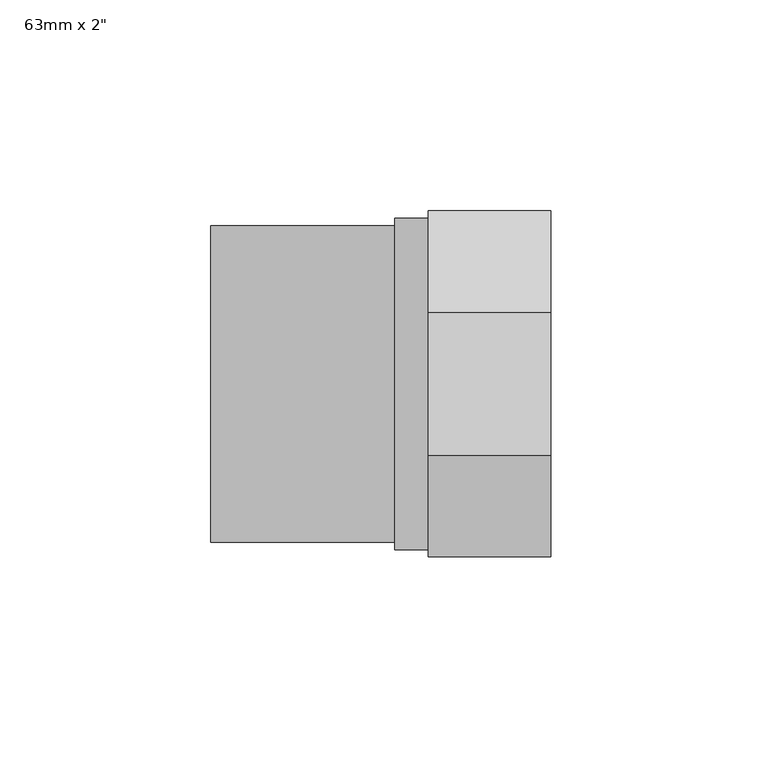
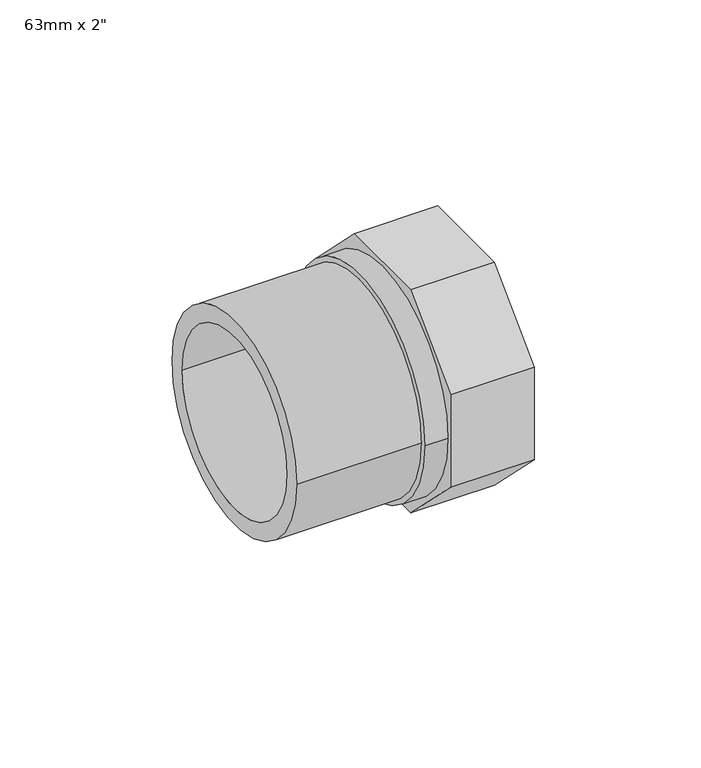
"""IFC4 building model written with IfcOpenShell, lengths in millimetres: pipe fitting geometry."""

from ifc_helpers import new_model, si_unit, point, frame, origin, origin_2d, place, context, project, spatial, polyline, circle_curve, trimmed, segment, composite_curve, outline, extrude, source, transform, mapped, element, save
from ifc_brep_helpers import plane_surface, revolved_surface, advanced_brep


def pipe_fitting_bdc568c9(model_context):
    return source(origin(), model_context, "Body", "SolidModel", [
        extrude(outline(composite_curve([segment(trimmed(circle_curve(origin_2d(), 39.25), [point((-39.25, 0.0))], [point((39.25, 0.0))], False, "CARTESIAN"), True, "CONTINUOUS"), segment(trimmed(circle_curve(origin_2d(), 39.25), [point((39.25, 0.0))], [point((-39.25, 0.0))], False, "CARTESIAN"), True, "CONTINUOUS")], self_intersect=False), holes=[composite_curve([segment(trimmed(circle_curve(origin_2d(), 25.0), [point((-25.0, 0.0))], [point((25.0, 0.0))], True, "CARTESIAN"), True, "CONTINUOUS"), segment(trimmed(circle_curve(origin_2d(), 25.0), [point((25.0, 0.0))], [point((-25.0, 0.0))], True, "CARTESIAN"), True, "CONTINUOUS")], self_intersect=False)]), frame((21.75, 0.0, 0.0), z_axis=(1.0, 0.0, 0.0), x_axis=(0.0, 1.0, 0.0)), (0.0, 0.0, 1.0), 8.0),
        advanced_brep(
        [(29.75, 16.9827561, 41.0), (29.75, 41.0, 16.9827561), (29.75, 41.0, -16.9827561), (29.75, 16.9827561, -41.0), (29.75, -16.9827561, -41.0), (29.75, -41.0, -16.9827561), (29.75, -41.0, 16.9827561), (29.75, -16.9827561, 41.0), (29.75, -25.0, 0.0), (29.75, 25.0, 0.0), (58.75, 16.9827561, 41.0), (58.75, -16.9827561, 41.0), (58.75, -41.0, 16.9827561), (58.75, -41.0, -16.9827561), (58.75, -16.9827561, -41.0), (58.75, 16.9827561, -41.0), (58.75, 41.0, -16.9827561), (58.75, 41.0, 16.9827561), (58.75, 30.0, 0.0), (58.75, -30.0, 0.0), (58.55, 30.0, 0.0), (58.55, -30.0, 0.0), (58.55, 25.0, 0.0), (58.55, -25.0, 0.0)],
        [
            (0, 1),
            (1, 2),
            (2, 3),
            (3, 4),
            (4, 5),
            (5, 6),
            (6, 7),
            (7, 0),
            (8, 9, circle_curve(frame((29.75, 0.0, 0.0), z_axis=(1.0, 0.0, 0.0), x_axis=(0.0, -1.0, 0.0)), 25.0)),
            (9, 8, circle_curve(frame((29.75, 0.0, 0.0), z_axis=(1.0, 0.0, 0.0), x_axis=(0.0, -1.0, 0.0)), 25.0)),
            (10, 11),
            (11, 12),
            (12, 13),
            (13, 14),
            (14, 15),
            (15, 16),
            (16, 17),
            (17, 10),
            (18, 19, circle_curve(frame((58.75, 0.0, 0.0), z_axis=(-1.0, 0.0, 0.0), x_axis=(0.0, -1.0, 0.0)), 30.0)),
            (19, 18, circle_curve(frame((58.75, 0.0, 0.0), z_axis=(-1.0, 0.0, 0.0), x_axis=(0.0, -1.0, 0.0)), 30.0)),
            (0, 10),
            (17, 1),
            (16, 2),
            (15, 3),
            (14, 4),
            (13, 5),
            (12, 6),
            (11, 7),
            (20, 21, circle_curve(frame((58.55, 0.0, 0.0), z_axis=(1.0, 0.0, 0.0), x_axis=(0.0, -1.0, 0.0)), 30.0)),
            (21, 20, circle_curve(frame((58.55, 0.0, 0.0), z_axis=(1.0, 0.0, 0.0), x_axis=(0.0, -1.0, 0.0)), 30.0)),
            (22, 23, circle_curve(frame((58.55, 0.0, 0.0), z_axis=(-1.0, 0.0, 0.0), x_axis=(0.0, -1.0, 0.0)), 25.0)),
            (23, 22, circle_curve(frame((58.55, 0.0, 0.0), z_axis=(-1.0, 0.0, 0.0), x_axis=(0.0, -1.0, 0.0)), 25.0)),
            (21, 19),
            (18, 20),
            (22, 9),
            (8, 23),
        ],
        [
            plane_surface(frame((29.75, 0.0, 0.0), z_axis=(-1.0, 0.0, 0.0), x_axis=(0.0, 0.0, 1.0))),
            plane_surface(frame((58.75, 0.0, 0.0), z_axis=(1.0, 0.0, 0.0), x_axis=(0.0, 0.0, 1.0))),
            plane_surface(frame((29.75, 16.9827561, 41.0), z_axis=(0.0, 0.7071067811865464, 0.7071067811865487), x_axis=(1.0, 0.0, 0.0))),
            plane_surface(frame((29.75, 41.0, 16.9827561), z_axis=(0.0, 1.0, 0.0), x_axis=(1.0, 0.0, 0.0))),
            plane_surface(frame((29.75, 41.0, -16.9827561), z_axis=(0.0, 0.7071067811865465, -0.7071067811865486), x_axis=(1.0, 0.0, 0.0))),
            plane_surface(frame((29.75, 16.9827561, -41.0), z_axis=(0.0, 0.0, -1.0), x_axis=(1.0, 0.0, 0.0))),
            plane_surface(frame((29.75, -16.9827561, -41.0), z_axis=(0.0, -0.707106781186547, -0.7071067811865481), x_axis=(1.0, 0.0, 0.0))),
            plane_surface(frame((29.75, -41.0, -16.9827561), z_axis=(0.0, -1.0, 0.0), x_axis=(1.0, 0.0, 0.0))),
            plane_surface(frame((29.75, -41.0, 16.9827561), z_axis=(0.0, -0.7071067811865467, 0.7071067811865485), x_axis=(1.0, 0.0, 0.0))),
            plane_surface(frame((29.75, -16.9827561, 41.0), z_axis=(0.0, 0.0, 1.0), x_axis=(1.0, 0.0, 0.0))),
            plane_surface(frame((58.55, -30.0, 0.0), z_axis=(1.0, 0.0, 0.0), x_axis=(0.0, 0.0, 1.0))),
            revolved_surface(polyline([(58.55, -30.0, 0.0), (58.75, -30.0, 0.0)]), (58.75, 0.0, 0.0), (-1.0, 0.0, 0.0)),
            revolved_surface(polyline([(29.75, -25.0, 0.0), (58.55, -25.0, 0.0)]), (58.75, 0.0, 0.0), (-1.0, 0.0, 0.0)),
        ],
        [
            (0, [[1, 2, 3, 4, 5, 6, 7, 8], [9, 10]]),
            (1, [[11, 12, 13, 14, 15, 16, 17, 18], [19, 20]]),
            (2, [[-1, 21, -18, 22]]),
            (3, [[-2, -22, -17, 23]]),
            (4, [[-3, -23, -16, 24]]),
            (5, [[-4, -24, -15, 25]]),
            (6, [[-5, -25, -14, 26]]),
            (7, [[-6, -26, -13, 27]]),
            (8, [[-7, -27, -12, 28]]),
            (9, [[-8, -28, -11, -21]]),
            (10, [[29, 30], [31, 32]]),
            (11, [[-30, 33, -19, 34]]),
            (11, [[-29, -34, -20, -33]]),
            (12, [[35, -9, 36, -31]]),
            (12, [[-35, -32, -36, -10]]),
        ],
    ),
        extrude(outline(composite_curve([segment(trimmed(circle_curve(origin_2d(), 37.5), [point((-37.5, 0.0))], [point((37.5, 0.0))], False, "CARTESIAN"), True, "CONTINUOUS"), segment(trimmed(circle_curve(origin_2d(), 37.5), [point((37.5, 0.0))], [point((-37.5, 0.0))], False, "CARTESIAN"), True, "CONTINUOUS")], self_intersect=False), holes=[composite_curve([segment(trimmed(circle_curve(origin_2d(), 31.5), [point((-31.5, 0.0))], [point((31.5, 0.0))], True, "CARTESIAN"), True, "CONTINUOUS"), segment(trimmed(circle_curve(origin_2d(), 31.5), [point((31.5, 0.0))], [point((-31.5, 0.0))], True, "CARTESIAN"), True, "CONTINUOUS")], self_intersect=False)]), frame((-21.75, 0.0, 0.0), z_axis=(1.0, 0.0, 0.0), x_axis=(0.0, 1.0, 0.0)), (0.0, 0.0, 1.0), 43.5),
    ])


if __name__ == "__main__":
    model = new_model("IFC4")
    model_context = context("Model", 3, world=origin())
    ifc_project = project(units=[si_unit("LENGTHUNIT", "METRE", prefix="MILLI")], contexts=[model_context])
    site = spatial("IfcSite", under=ifc_project)
    building = spatial("IfcBuilding", under=site)
    placement = place(None, origin())
    pipe_fitting_shape = pipe_fitting_bdc568c9(model_context)
    element("IfcPipeFitting", 1, ObjectType="PipeFitting_HTA_CPVC_ThreadedAdaptors : 63mm x 2\"", at=placement, inside=building, context=model_context, shape_type="MappedRepresentation", body=[
        mapped(pipe_fitting_shape, transform((0.0, 0.0, 0.0), x_axis=(1.0, 0.0, 0.0), y_axis=(0.0, 1.0, 0.0), z_axis=(0.0, 0.0, 1.0))),
    ])
    save(model, "model.ifc")
